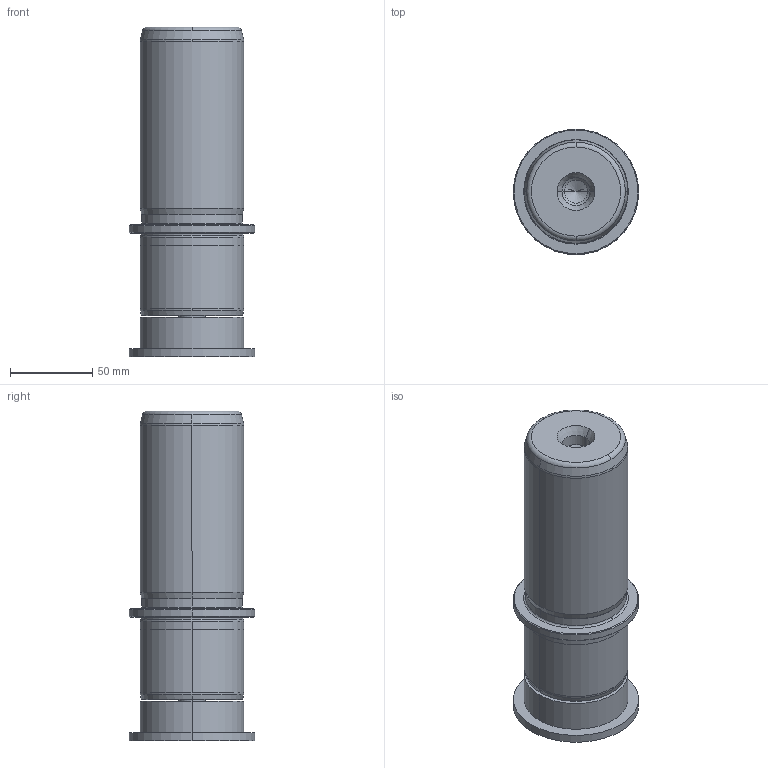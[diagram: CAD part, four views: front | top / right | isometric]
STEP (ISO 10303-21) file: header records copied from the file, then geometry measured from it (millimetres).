
FILE_DESCRIPTION((''),'2;1');
FILE_NAME('P22_063_125.stp','2009-02-06T15:49:30',(''),(''),'Mechanical Desktop 2009','Mechanical Desktop 2009',', , ');
FILE_SCHEMA(('CONFIG_CONTROL_DESIGN'));
Length unit declared in the file: millimetre
Products named in the file (2): Product; blmdl1
Assembly tree (1 placements, depth 2):
  Product
    blmdl1
Bounding box: 76 x 76 x 200 mm (x, y, z)
Volume: 617179.7 mm3; surface area: 66900.6 mm2
Topology: 3 solids, 3 shells, 99 faces, 237 edges, 149 vertices
Faces by surface type: cylinder 32, cone 28, plane 19, torus 10, bspline 10
Entity records: 3419 total; most frequent: CARTESIAN_POINT 923, DIRECTION 570, ORIENTED_EDGE 466, AXIS2_PLACEMENT_3D 246, EDGE_CURVE 233, CIRCLE 155, VERTEX_POINT 149, EDGE_LOOP 110
